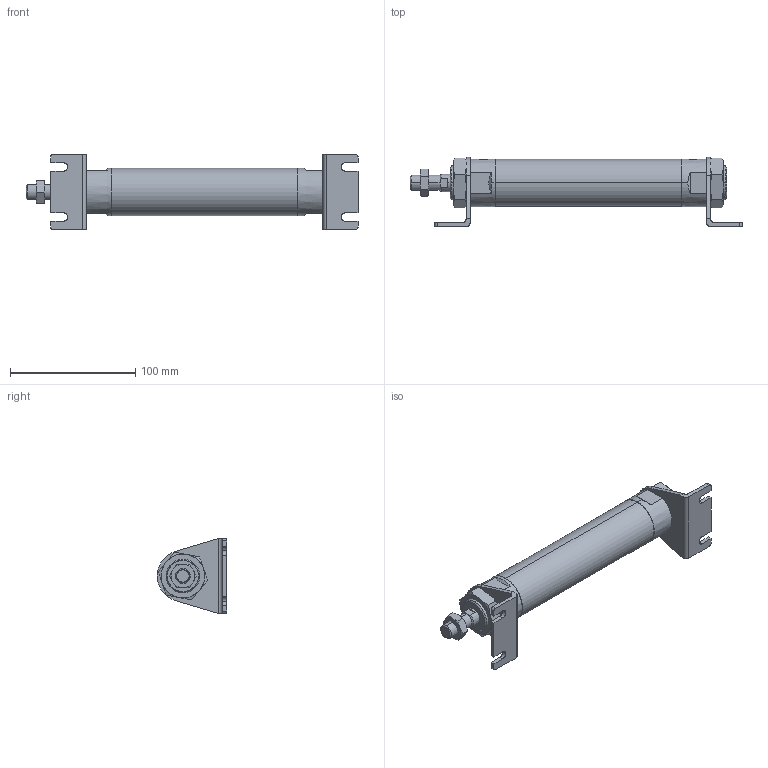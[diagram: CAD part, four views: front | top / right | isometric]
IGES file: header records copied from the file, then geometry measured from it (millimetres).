
Start section: SolidWorks IGES file using analytic representation for surfaces
Global section: file name: C:\Users\Toshiba\Desktop\J#2-32-100-L.IGS; native system: SolidWorks 2014; preprocessor: SolidWorks 2014; author: Toshiba; date: 160310.085911; units: millimetre
Bounding box: 265.2 x 55.5 x 60 mm (x, y, z)
Surface area: 52101.2 mm2 (no closed solid volume)
Topology: 0 solids, 0 shells, 170 faces, 2728 edges, 2724 vertices
Faces by surface type: bspline 107, revolution 63
